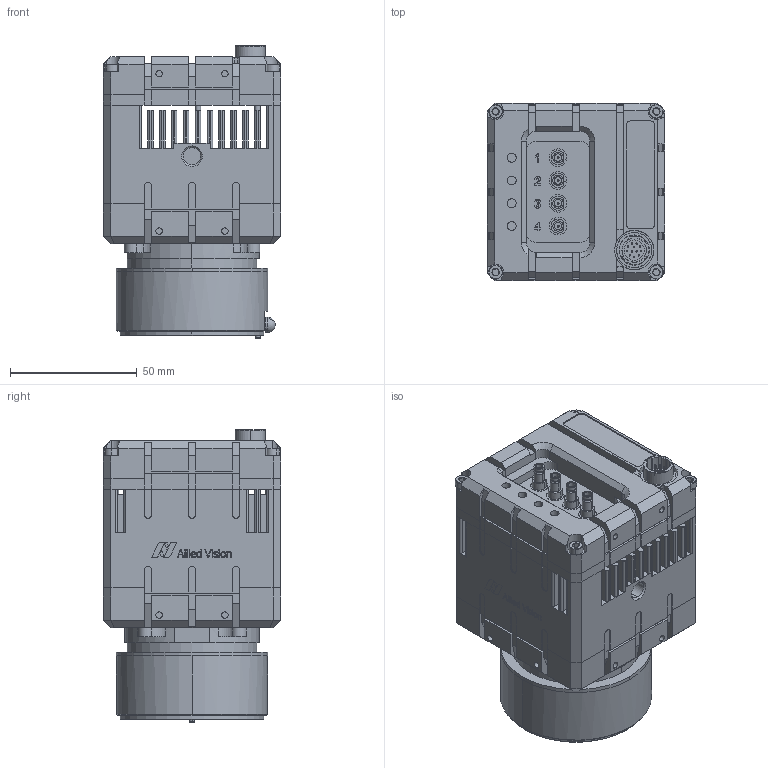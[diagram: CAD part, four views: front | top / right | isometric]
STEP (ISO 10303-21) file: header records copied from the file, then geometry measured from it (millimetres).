
FILE_DESCRIPTION (( 'STEP AP214' ), '1' );
FILE_NAME ('BONITO PYTHON FIXED FMOUNT MONO.STEP', '2018-05-11T19:40:41', ( '' ), ( '' ), 'SwSTEP 2.0', 'SolidWorks 2017', '' );
FILE_SCHEMA (( 'AUTOMOTIVE_DESIGN' ));
Length unit declared in the file: millimetre
Products named in the file (11): NIKON FMOUNT FRONT ASSY - DEFEATURED; LENS MOUNT BASE - DEFEATURED; FMOUNT TUBE - DEFEATURED; BONITO PYTHON FIXED FMOUNT MONO; FMOUNT LOCKING PIN - DEFEATURED; FMOUNT MOUNTING SCREW - DEFEATURED; FMOUNT DOWEL PIN - DEFEATURED; FMOUNT BASE PLATE - DEFEATURED; FMOUNT LOCKING KNOB - DEFEATURED; FMOUNT LOCKING RING - DEFEATURED; BONITO BODY ASSY - PYTHON - DEFEATURED
Assembly tree (15 placements, depth 3):
  BONITO PYTHON FIXED FMOUNT MONO
    BONITO BODY ASSY - PYTHON - DEFEATURED
    LENS MOUNT BASE - DEFEATURED
    NIKON FMOUNT FRONT ASSY - DEFEATURED
      FMOUNT LOCKING RING - DEFEATURED
      FMOUNT LOCKING KNOB - DEFEATURED
      FMOUNT LOCKING PIN - DEFEATURED
      FMOUNT MOUNTING SCREW - DEFEATURED  x6
      FMOUNT TUBE - DEFEATURED
      FMOUNT BASE PLATE - DEFEATURED
      FMOUNT DOWEL PIN - DEFEATURED
Bounding box: 70 x 70 x 115.55 mm (x, y, z)
Volume: 315465.2 mm3; surface area: 96802.7 mm2
Topology: 14 solids, 14 shells, 1737 faces, 4513 edges, 2903 vertices
Faces by surface type: plane 949, cylinder 485, bspline 133, cone 86, torus 57, sphere 27
Entity records: 53499 total; most frequent: CARTESIAN_POINT 13575, ORIENTED_EDGE 8352, DIRECTION 7977, EDGE_CURVE 4176, VERTEX_POINT 2697, LINE 2679, VECTOR 2679, AXIS2_PLACEMENT_3D 2649
